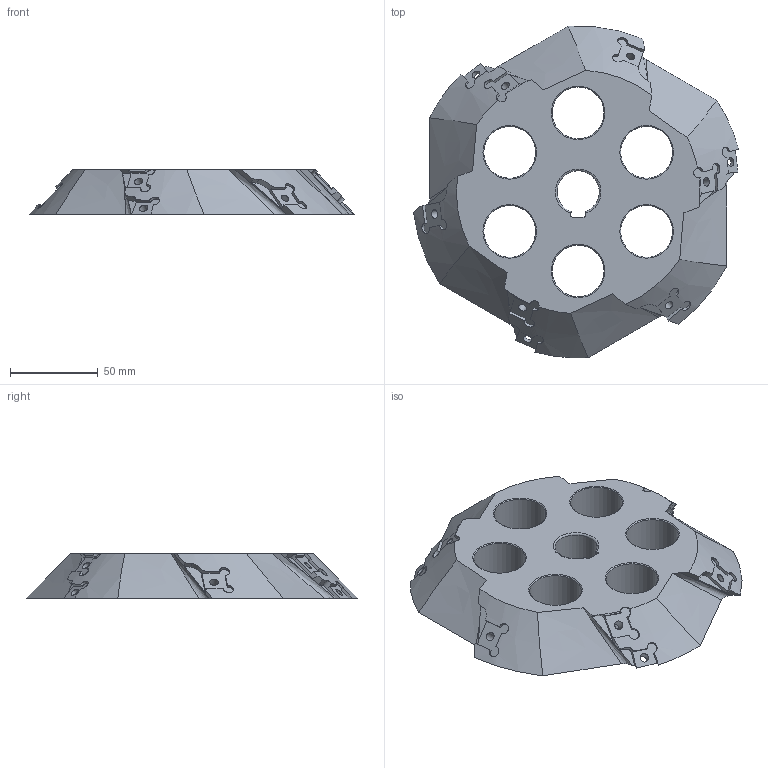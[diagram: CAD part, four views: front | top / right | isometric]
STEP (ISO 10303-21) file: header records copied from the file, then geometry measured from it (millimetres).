
FILE_DESCRIPTION(('STEP AP242'), '1');
FILE_NAME('ﾀﾈﾐﾏ-10.033.01.01 - ﾔ鈞', '', ('UNSPECIFIED'), ('UNSPECIFIED'), 'C3D Converter', 'C3D Toolkit', '');
FILE_SCHEMA(('AP242_MANAGED_MODEL_BASED_3D_ENGINEERING_MIM_LF { 1 0 10303 442 1 1 4 }'));
Length unit declared in the file: millimetre
Products named in the file (1): АИРП-10.033.01.01
Bounding box: 185.1 x 188.72 x 25.2 mm (x, y, z)
Volume: 373318.8 mm3; surface area: 66434.5 mm2
Topology: 1 solids, 1 shells, 157 faces, 444 edges, 289 vertices
Faces by surface type: plane 71, cylinder 42, cone 30, bspline 12, torus 2
Full cylindrical faces by diameter (mm): 4.917 x9, 29.5 x6
Entity records: 7300 total; most frequent: CARTESIAN_POINT 3490, ORIENTED_EDGE 810, DIRECTION 692, EDGE_CURVE 405, VERTEX_POINT 283, AXIS2_PLACEMENT_3D 244, EDGE_LOOP 210, LINE 204
